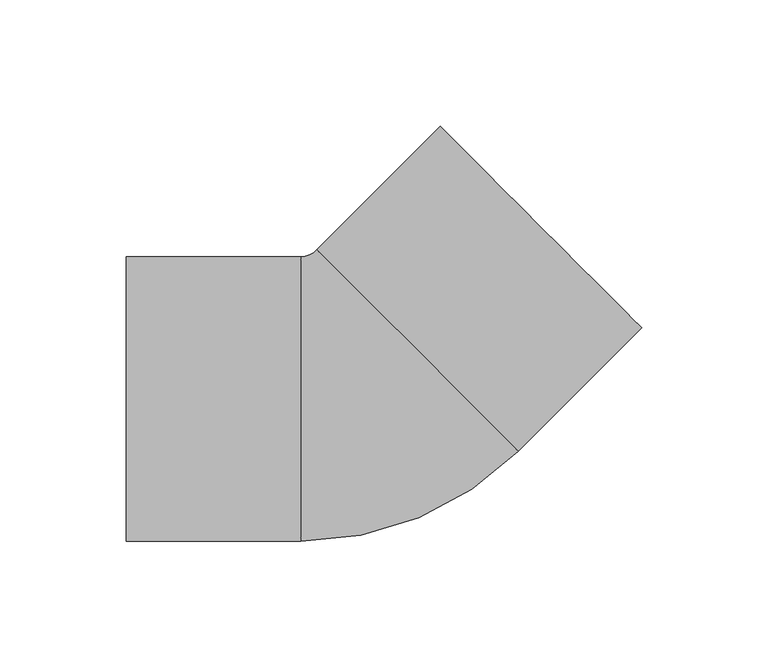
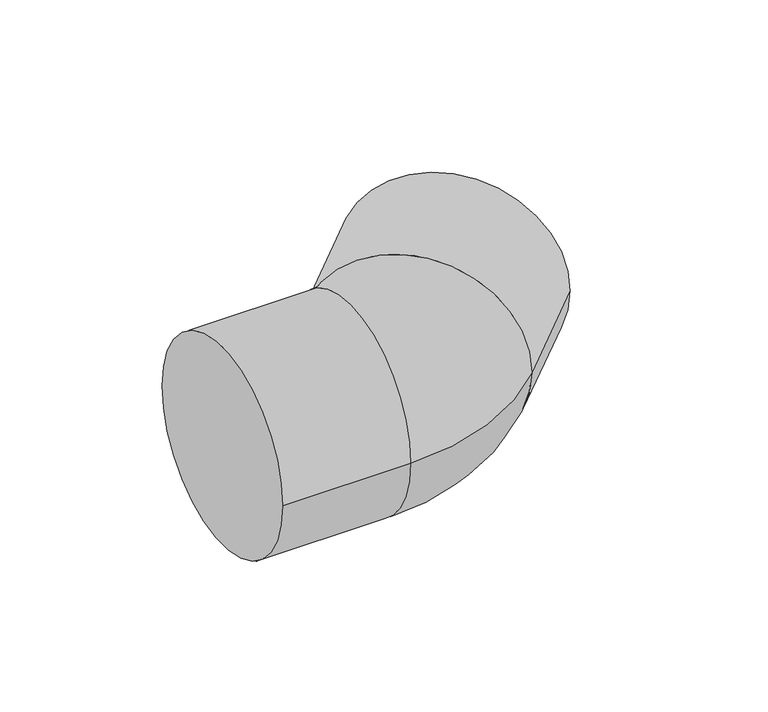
"""IFC4 building model written with IfcOpenShell, lengths in millimetres: pipe fitting geometry, 01051067 : Codos 45º."""

from ifc_helpers import new_model, si_unit, point, frame, origin, place, context, project, spatial, circle_curve, ellipse_curve, trimmed, source, transform, mapped, element, save
from ifc_brep_helpers import plane_surface, cylinder_surface, revolved_surface, advanced_brep


def pipe_fitting_54bbe81e(model_context):
    return source(origin(), model_context, "Body", "AdvancedBrep", [
        advanced_brep(
        [(-96.0, -56.25, 0.0), (-96.0, 56.25, 0.0), (-27.0, -56.25, 0.0), (-27.0, 56.25, 0.0), (-20.6828733, 58.8666395, 0.0), (58.8666395, -20.6828733, 0.0), (107.6570074, 28.1074946, 0.0), (28.1074946, 107.6570074, 0.0)],
        [
            (0, 1, circle_curve(frame((-96.0, 0.0, 0.0), z_axis=(-1.0, 0.0, 0.0), x_axis=(0.0, 1.0, 0.0)), 56.25)),
            (1, 0, circle_curve(frame((-96.0, 0.0, 0.0), z_axis=(-1.0, 0.0, 0.0), x_axis=(0.0, 1.0, 0.0)), 56.25)),
            (0, 2),
            (2, 3, circle_curve(frame((-27.0, 0.0, 0.0), z_axis=(-1.0, 0.0, 0.0), x_axis=(0.0, 1.0, 0.0)), 56.25)),
            (3, 1),
            (3, 2, circle_curve(frame((-27.0, 0.0, 0.0), z_axis=(-1.0, 0.0, 0.0), x_axis=(0.0, 1.0, 0.0)), 56.25)),
            (4, 3, circle_curve(frame((-27.0, 65.1837662, 0.0), z_axis=(0.0, 0.0, -1.0), x_axis=(0.0, -1.0, 0.0)), 8.9337662)),
            (2, 5, circle_curve(frame((-27.0, 65.1837662, 0.0), z_axis=(0.0, 0.0, 1.0), x_axis=(0.0, -1.0, 0.0)), 121.4337662)),
            (5, 4, circle_curve(frame((19.0918831, 19.0918831, 0.0), z_axis=(-0.7071067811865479, -0.7071067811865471, 0.0), x_axis=(-0.7071067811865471, 0.7071067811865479, 0.0)), 56.25)),
            (4, 5, circle_curve(frame((19.0918831, 19.0918831, 0.0), z_axis=(-0.7071067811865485, -0.7071067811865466, 0.0), x_axis=(-0.7071067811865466, 0.7071067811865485, 0.0)), 56.25)),
            (6, 7, circle_curve(frame((67.882251, 67.882251, 0.0), z_axis=(0.7071067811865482, 0.7071067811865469, 0.0), x_axis=(-0.7071067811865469, 0.7071067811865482, 0.0)), 56.25)),
            (7, 6, circle_curve(frame((67.882251, 67.882251, 0.0), z_axis=(0.7071067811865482, 0.7071067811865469, 0.0), x_axis=(-0.7071067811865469, 0.7071067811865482, 0.0)), 56.25)),
            (5, 6),
            (7, 4),
        ],
        [
            plane_surface(frame((-96.0, 0.0, 0.0), z_axis=(-1.0, 0.0, 0.0), x_axis=(0.0, 0.0, 1.0))),
            cylinder_surface(frame((-96.0, 0.0, 0.0), z_axis=(-1.0, 0.0, 0.0), x_axis=(0.0, 1.0, 0.0)), 56.25),
            revolved_surface(trimmed(ellipse_curve(frame((-27.0, 0.0, 0.0), z_axis=(-1.0, 0.0, 0.0), x_axis=(0.0, 1.0, 0.0)), 56.25, 56.25), [point((-27.0, -56.25, 0.0))], [point((-27.0, 56.25, 0.0))], True, "CARTESIAN"), (-27.0, 65.1837662, 0.0), (0.0, 0.0, 1.0)),
            revolved_surface(trimmed(ellipse_curve(frame((-27.0, 0.0, 0.0), z_axis=(-1.0, 0.0, 0.0), x_axis=(0.0, 1.0, 0.0)), 56.25, 56.25), [point((-27.0, 56.25, 0.0))], [point((-27.0, -56.25, 0.0))], True, "CARTESIAN"), (-27.0, 65.1837662, 0.0), (0.0, 0.0, 1.0)),
            plane_surface(frame((67.882251, 67.882251, 0.0), z_axis=(0.7071067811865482, 0.7071067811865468, 0.0), x_axis=(0.0, 0.0, 1.0))),
            cylinder_surface(frame((19.0918831, 19.0918831, 0.0), z_axis=(-0.7071067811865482, -0.7071067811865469, 0.0), x_axis=(-0.7071067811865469, 0.7071067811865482, 0.0)), 56.25),
        ],
        [
            (0, [[1, 2]]),
            (1, [[-1, 3, 4, 5]]),
            (1, [[-2, -5, 6, -3]]),
            (2, [[7, -4, 8, 9]]),
            (3, [[-8, -6, -7, 10]]),
            (4, [[11, 12]]),
            (5, [[-9, 13, -12, 14]]),
            (5, [[-10, -14, -11, -13]]),
        ],
    ),
    ])


if __name__ == "__main__":
    model = new_model("IFC4")
    model_context = context("Model", 3, world=origin())
    ifc_project = project(units=[si_unit("LENGTHUNIT", "METRE", prefix="MILLI")], contexts=[model_context])
    site = spatial("IfcSite", under=ifc_project)
    building = spatial("IfcBuilding", under=site)
    placement = place(None, origin())
    pipe_fitting_shape = pipe_fitting_54bbe81e(model_context)
    element("IfcPipeFitting", 1, ObjectType="01051067 : Codos 45º", at=placement, inside=building, context=model_context, shape_type="MappedRepresentation", body=[
        mapped(pipe_fitting_shape, transform((0.0, 0.0, 0.0), x_axis=(1.0, 0.0, 0.0), y_axis=(0.0, 1.0, 0.0), z_axis=(0.0, 0.0, 1.0))),
    ])
    save(model, "model.ifc")
